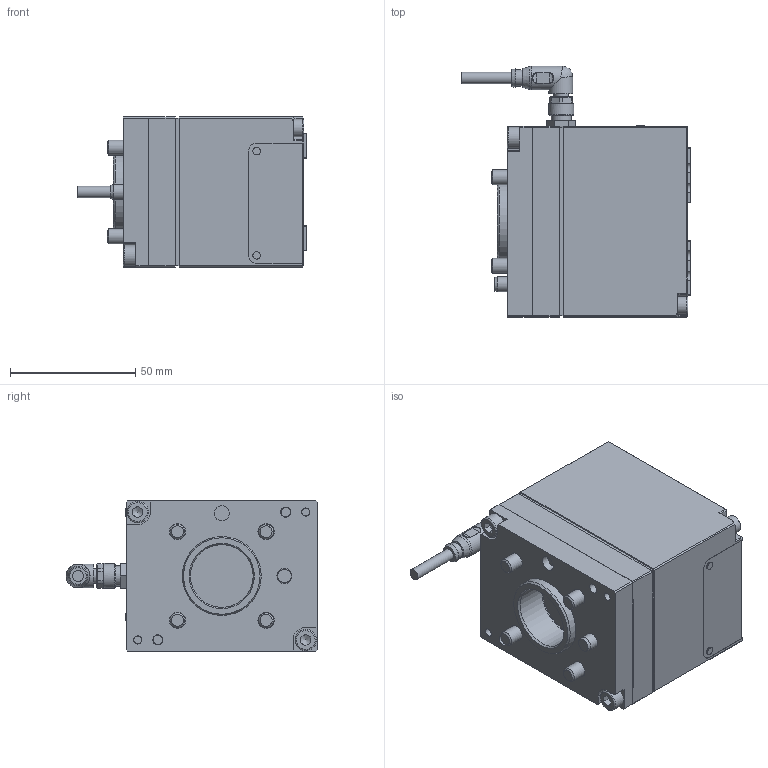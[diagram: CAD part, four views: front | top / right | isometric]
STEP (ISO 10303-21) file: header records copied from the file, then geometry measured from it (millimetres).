
FILE_DESCRIPTION((''),'2;1');
FILE_SCHEMA(('AUTOMOTIVE_DESIGN { 1 0 10303 214 1 1 1 1 }'));
Length unit declared in the file: millimetre
Products named in the file (11): FL-ISO50-IEG76 Zusammenbau.iam (GRIPKIT-E2); IEG76-030_customer; IEG76_tragstruktur; IEG76_grundbacke; FL-ISO50-IEG76 - CUSTOMER; Sensor-Aktor-Leitung PUR 4x0.25qmm pol. 5 m - Art.-Nr. 4020007; ISO 4762 M6 x 10; ISO 4762 M5 x 12; ISO 4762 M4 x 65; ISO 2338 4 h8 x 10 - B; DIN EN ISO 2338 6 h8 x 8
Assembly tree (17 placements, depth 3):
  FL-ISO50-IEG76 Zusammenbau.iam (GRIPKIT-E2)
    IEG76-030_customer
      IEG76_tragstruktur
      IEG76_grundbacke  x2
    FL-ISO50-IEG76 - CUSTOMER
    Sensor-Aktor-Leitung PUR 4x0.25qmm pol. 5 m - Art.-Nr. 4020007
    ISO 4762 M6 x 10  x4
    ISO 4762 M5 x 12  x2
    ISO 4762 M4 x 65  x2
    ISO 2338 4 h8 x 10 - B  x2
    DIN EN ISO 2338 6 h8 x 8
Bounding box: 91.21 x 100.35 x 60 mm (x, y, z)
Volume: 316308.3 mm3; surface area: 63338.4 mm2
Topology: 16 solids, 16 shells, 1762 faces, 4578 edges, 3021 vertices
Faces by surface type: bspline 861, plane 758, cylinder 89, cone 39, torus 11, sphere 4
Full cylindrical faces by diameter (mm): 1 x4, 1.2 x4, 3 x4, 4 x4, 4.5 x1, 5 x2, 5.7 x1, 5.8 x1, 6 x5, 6.7 x1, 7 x3, 8 x1, 8.5 x2, 9.5 x2, 10 x5, 31.5 x1
Entity records: 67221 total; most frequent: CARTESIAN_POINT 31904, ORIENTED_EDGE 8442, DIRECTION 4534, EDGE_CURVE 4221, VERTEX_POINT 2850, VECTOR 2340, LINE 2340, EDGE_LOOP 1941
